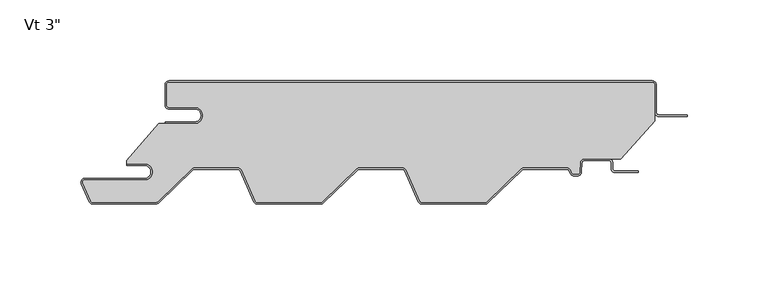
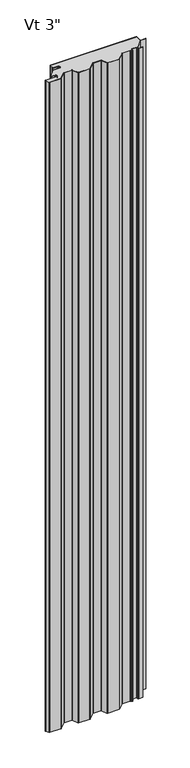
"""IFC4 building model written with IfcOpenShell, lengths in millimetres: plate geometry."""

from ifc_helpers import new_model, si_unit, point, frame_2d, origin, origin_with_axes, place, context, project, spatial, polyline, circle_curve, trimmed, segment, composite_curve, outline, extrude, source, transform, mapped, element, save


def plate_98024638(model_context):
    return source(origin(), model_context, "Body", "SweptSolid", [
        extrude(outline(composite_curve([segment(trimmed(circle_curve(frame_2d((-133.34375, -21.4324412)), 4.96875), [point((-133.34375, -26.4011912))], [point((-133.34375, -16.4636912))], True, "CARTESIAN"), True, "CONTINUOUS"), segment(polyline([(-133.34375, -16.4636912), (-149.21875, -16.4636912)]), True, "CONTINUOUS"), segment(trimmed(circle_curve(frame_2d((-149.21875, -15.0824412)), 1.38125), [point((-149.21875, -16.4636912))], [point((-150.6, -15.0824412))], False, "CARTESIAN"), True, "CONTINUOUS"), segment(polyline([(-150.6, -15.0824412), (-150.6, -2.3824412)]), True, "CONTINUOUS"), segment(trimmed(circle_curve(frame_2d((-149.21875, -2.3824412)), 1.38125), [point((-150.6, -2.3824412))], [point((-149.21875, -1.0011912))], False, "CARTESIAN"), True, "CONTINUOUS"), segment(polyline([(-149.21875, -1.0011912), (149.23125, -1.0011912)]), True, "CONTINUOUS"), segment(trimmed(circle_curve(frame_2d((149.23125, -2.3824412)), 1.38125), [point((149.23125, -1.0011912))], [point((150.6125, -2.3824412))], False, "CARTESIAN"), True, "CONTINUOUS"), segment(polyline([(150.6125, -2.3824412), (150.6125, -24.8719682), (129.7955434, -48.2136912), (107.3683457, -48.2136912)]), True, "CONTINUOUS"), segment(trimmed(circle_curve(frame_2d((107.3683457, -50.8011912)), 2.5875), [point((107.3683457, -48.2136912))], [point((104.7843918, -50.6657719))], True, "CARTESIAN"), True, "CONTINUOUS"), segment(polyline([(104.7843918, -50.6657719), (104.4823155, -56.4297302)]), True, "CONTINUOUS"), segment(trimmed(circle_curve(frame_2d((103.1029585, -56.3574412)), 1.38125), [point((104.4823155, -56.4297302))], [point((103.1029585, -57.7386912))], False, "CARTESIAN"), True, "CONTINUOUS"), segment(polyline([(103.1029585, -57.7386912), (100.7754519, -57.7386912)]), True, "CONTINUOUS"), segment(trimmed(circle_curve(frame_2d((100.7754519, -56.3574412)), 1.38125), [point((100.7754519, -57.7386912))], [point((99.5124516, -56.9166208))], False, "CARTESIAN"), True, "CONTINUOUS"), segment(polyline([(99.5124516, -56.9166208), (98.7640306, -55.2261871)]), True, "CONTINUOUS"), segment(trimmed(circle_curve(frame_2d((96.3980481, -56.2737)), 2.5875), [point((98.7640306, -55.2261871))], [point((96.3980481, -53.6862))], True, "CARTESIAN"), True, "CONTINUOUS"), segment(polyline([(96.3980481, -53.6862), (69.8742003, -53.6862)]), True, "CONTINUOUS"), segment(trimmed(circle_curve(frame_2d((69.8742003, -56.2737)), 2.5875), [point((69.8742003, -53.6862))], [point((68.0745496, -54.4145567))], True, "CARTESIAN"), True, "CONTINUOUS"), segment(polyline([(68.0745496, -54.4145567), (47.0036462, -74.8111912)]), True, "CONTINUOUS"), segment(trimmed(circle_curve(frame_2d((46.0429631, -73.81875)), 1.38125), [point((47.0036462, -74.8111912))], [point((46.0429631, -75.2))], False, "CARTESIAN"), True, "CONTINUOUS"), segment(polyline([(46.0429631, -75.2), (6.9062557, -75.2)]), True, "CONTINUOUS"), segment(trimmed(circle_curve(frame_2d((6.9062557, -73.81875)), 1.38125), [point((6.9062557, -75.2))], [point((5.6432554, -74.3779296))], False, "CARTESIAN"), True, "CONTINUOUS"), segment(polyline([(5.6432554, -74.3779296), (-2.8359694, -55.2261871)]), True, "CONTINUOUS"), segment(trimmed(circle_curve(frame_2d((-5.2019519, -56.2737)), 2.5875), [point((-2.8359694, -55.2261871))], [point((-5.2019519, -53.6862))], True, "CARTESIAN"), True, "CONTINUOUS"), segment(polyline([(-5.2019519, -53.6862), (-31.7257997, -53.6862)]), True, "CONTINUOUS"), segment(trimmed(circle_curve(frame_2d((-31.7257997, -56.2737)), 2.5875), [point((-31.7257997, -53.6862))], [point((-33.5254504, -54.4145567))], True, "CARTESIAN"), True, "CONTINUOUS"), segment(polyline([(-33.5254504, -54.4145567), (-54.5963538, -74.8111912)]), True, "CONTINUOUS"), segment(trimmed(circle_curve(frame_2d((-55.5570369, -73.81875)), 1.38125), [point((-54.5963538, -74.8111912))], [point((-55.5570369, -75.2))], False, "CARTESIAN"), True, "CONTINUOUS"), segment(polyline([(-55.5570369, -75.2), (-94.6937443, -75.2)]), True, "CONTINUOUS"), segment(trimmed(circle_curve(frame_2d((-94.6937443, -73.81875)), 1.38125), [point((-94.6937443, -75.2))], [point((-95.9567446, -74.3779296))], False, "CARTESIAN"), True, "CONTINUOUS"), segment(polyline([(-95.9567446, -74.3779296), (-104.4359694, -55.2261871)]), True, "CONTINUOUS"), segment(trimmed(circle_curve(frame_2d((-106.8019519, -56.2737)), 2.5875), [point((-104.4359694, -55.2261871))], [point((-106.8019519, -53.6862))], True, "CARTESIAN"), True, "CONTINUOUS"), segment(polyline([(-106.8019519, -53.6862), (-133.3257997, -53.6862)]), True, "CONTINUOUS"), segment(trimmed(circle_curve(frame_2d((-133.3257997, -56.2737)), 2.5875), [point((-133.3257997, -53.6862))], [point((-135.1254504, -54.4145567))], True, "CARTESIAN"), True, "CONTINUOUS"), segment(polyline([(-135.1254504, -54.4145567), (-155.9876931, -74.6092077)]), True, "CONTINUOUS"), segment(trimmed(circle_curve(frame_2d((-157.4474446, -73.1012)), 2.0988), [point((-155.9876931, -74.6092077))], [point((-157.4474446, -75.2))], False, "CARTESIAN"), True, "CONTINUOUS"), segment(polyline([(-157.4474446, -75.2), (-196.2937443, -75.2)]), True, "CONTINUOUS"), segment(trimmed(circle_curve(frame_2d((-196.2937443, -73.81875)), 1.38125), [point((-196.2937443, -75.2))], [point((-197.5567446, -74.3779296))], False, "CARTESIAN"), True, "CONTINUOUS"), segment(polyline([(-197.5567446, -74.3779296), (-202.4761552, -63.2666208)]), True, "CONTINUOUS"), segment(trimmed(circle_curve(frame_2d((-201.2131549, -62.7074412)), 1.38125), [point((-202.4761552, -63.2666208))], [point((-201.2131549, -61.3261912))], False, "CARTESIAN"), True, "CONTINUOUS"), segment(polyline([(-201.2131549, -61.3261912), (-164.3, -61.3261912)]), True, "CONTINUOUS"), segment(trimmed(circle_curve(frame_2d((-164.3, -56.3574412)), 4.96875), [point((-164.3, -61.3261912))], [point((-164.3, -51.3886912))], True, "CARTESIAN"), True, "CONTINUOUS"), segment(polyline([(-164.3, -51.3886912), (-175.4125, -51.3886912), (-175.4125, -49.233822), (-155.5914112, -26.4011912), (-133.34375, -26.4011912)]), True, "CONTINUOUS")], self_intersect=False)), origin_with_axes(), (0.0, 0.0, 1.0), 2400.0),
        extrude(outline(composite_curve([segment(polyline([(-151.6, -25.4), (-133.34375, -25.4)]), True, "CONTINUOUS"), segment(trimmed(circle_curve(frame_2d((-133.34375, -21.43125)), 3.96875), [point((-133.34375, -25.4))], [point((-133.34375, -17.4625))], True, "CARTESIAN"), True, "CONTINUOUS"), segment(polyline([(-133.34375, -17.4625), (-149.21875, -17.4625)]), True, "CONTINUOUS"), segment(trimmed(circle_curve(frame_2d((-149.21875, -15.08125)), 2.38125), [point((-149.21875, -17.4625))], [point((-151.6, -15.08125))], False, "CARTESIAN"), True, "CONTINUOUS"), segment(polyline([(-151.6, -15.08125), (-151.6, -2.38125)]), True, "CONTINUOUS"), segment(trimmed(circle_curve(frame_2d((-149.21875, -2.38125)), 2.38125), [point((-151.6, -2.38125))], [point((-149.21875, 0.0))], False, "CARTESIAN"), True, "CONTINUOUS"), segment(polyline([(-149.21875, 0.0), (149.23125, 0.0)]), True, "CONTINUOUS"), segment(trimmed(circle_curve(frame_2d((149.23125, -2.38125)), 2.38125), [point((149.23125, 0.0))], [point((151.6125, -2.38125))], False, "CARTESIAN"), True, "CONTINUOUS"), segment(polyline([(151.6125, -2.38125), (151.6125, -19.446875)]), True, "CONTINUOUS"), segment(trimmed(circle_curve(frame_2d((153.2, -19.446875)), 1.5875), [point((151.6125, -19.446875))], [point((153.2, -21.034375))], True, "CARTESIAN"), True, "CONTINUOUS"), segment(polyline([(153.2, -21.034375), (170.6625, -21.034375), (170.6625, -22.034375), (153.2, -22.034375)]), True, "CONTINUOUS"), segment(trimmed(circle_curve(frame_2d((153.2, -19.446875)), 2.5875), [point((153.2, -22.034375))], [point((150.6125, -19.446875))], False, "CARTESIAN"), True, "CONTINUOUS"), segment(polyline([(150.6125, -19.446875), (150.6125, -2.38125)]), True, "CONTINUOUS"), segment(trimmed(circle_curve(frame_2d((149.23125, -2.38125)), 1.38125), [point((150.6125, -2.38125))], [point((149.23125, -1.0))], True, "CARTESIAN"), True, "CONTINUOUS"), segment(polyline([(149.23125, -1.0), (-149.21875, -1.0)]), True, "CONTINUOUS"), segment(trimmed(circle_curve(frame_2d((-149.21875, -2.38125)), 1.38125), [point((-149.21875, -1.0))], [point((-150.6, -2.38125))], True, "CARTESIAN"), True, "CONTINUOUS"), segment(polyline([(-150.6, -2.38125), (-150.6, -15.08125)]), True, "CONTINUOUS"), segment(trimmed(circle_curve(frame_2d((-149.21875, -15.08125)), 1.38125), [point((-150.6, -15.08125))], [point((-149.21875, -16.4625))], True, "CARTESIAN"), True, "CONTINUOUS"), segment(polyline([(-149.21875, -16.4625), (-133.34375, -16.4625)]), True, "CONTINUOUS"), segment(trimmed(circle_curve(frame_2d((-133.34375, -21.43125)), 4.96875), [point((-133.34375, -16.4625))], [point((-133.34375, -26.4))], False, "CARTESIAN"), True, "CONTINUOUS"), segment(polyline([(-133.34375, -26.4), (-151.6, -26.4), (-151.6, -25.4)]), True, "CONTINUOUS")], self_intersect=False)), origin_with_axes(), (0.0, 0.0, 1.0), 2400.0),
        extrude(outline(composite_curve([segment(trimmed(circle_curve(frame_2d((-164.3, -56.3574412)), 3.96875), [point((-164.3, -60.3261912))], [point((-164.3, -52.3886912))], True, "CARTESIAN"), True, "CONTINUOUS"), segment(polyline([(-164.3, -52.3886912), (-175.4125, -52.3886912), (-175.4125, -51.3886912), (-164.3, -51.3886912)]), True, "CONTINUOUS"), segment(trimmed(circle_curve(frame_2d((-164.3, -56.3574412)), 4.96875), [point((-164.3, -51.3886912))], [point((-164.3, -61.3261912))], False, "CARTESIAN"), True, "CONTINUOUS"), segment(polyline([(-164.3, -61.3261912), (-201.2131549, -61.3261912)]), True, "CONTINUOUS"), segment(trimmed(circle_curve(frame_2d((-201.2131549, -62.7074412)), 1.38125), [point((-201.2131549, -61.3261912))], [point((-202.4761552, -63.2666208))], True, "CARTESIAN"), True, "CONTINUOUS"), segment(polyline([(-202.4761552, -63.2666208), (-197.5567446, -74.3779296)]), True, "CONTINUOUS"), segment(trimmed(circle_curve(frame_2d((-196.2937443, -73.81875)), 1.38125), [point((-197.5567446, -74.3779296))], [point((-196.2937443, -75.2))], True, "CARTESIAN"), True, "CONTINUOUS"), segment(polyline([(-196.2937443, -75.2), (-157.4474446, -75.2)]), True, "CONTINUOUS"), segment(trimmed(circle_curve(frame_2d((-157.4474446, -73.1012)), 2.0988), [point((-157.4474446, -75.2))], [point((-155.9876931, -74.6092077))], True, "CARTESIAN"), True, "CONTINUOUS"), segment(polyline([(-155.9876931, -74.6092077), (-135.1254504, -54.4145567)]), True, "CONTINUOUS"), segment(trimmed(circle_curve(frame_2d((-133.3257997, -56.2737)), 2.5875), [point((-135.1254504, -54.4145567))], [point((-133.3257997, -53.6862))], False, "CARTESIAN"), True, "CONTINUOUS"), segment(polyline([(-133.3257997, -53.6862), (-106.8019519, -53.6862)]), True, "CONTINUOUS"), segment(trimmed(circle_curve(frame_2d((-106.8019519, -56.2737)), 2.5875), [point((-106.8019519, -53.6862))], [point((-104.4359694, -55.2261871))], False, "CARTESIAN"), True, "CONTINUOUS"), segment(polyline([(-104.4359694, -55.2261871), (-95.9567446, -74.3779296)]), True, "CONTINUOUS"), segment(trimmed(circle_curve(frame_2d((-94.6937443, -73.81875)), 1.38125), [point((-95.9567446, -74.3779296))], [point((-94.6937443, -75.2))], True, "CARTESIAN"), True, "CONTINUOUS"), segment(polyline([(-94.6937443, -75.2), (-55.5570369, -75.2)]), True, "CONTINUOUS"), segment(trimmed(circle_curve(frame_2d((-55.5570369, -73.81875)), 1.38125), [point((-55.5570369, -75.2))], [point((-54.5963538, -74.8111912))], True, "CARTESIAN"), True, "CONTINUOUS"), segment(polyline([(-54.5963538, -74.8111912), (-33.5254504, -54.4145567)]), True, "CONTINUOUS"), segment(trimmed(circle_curve(frame_2d((-31.7257997, -56.2737)), 2.5875), [point((-33.5254504, -54.4145567))], [point((-31.7257997, -53.6862))], False, "CARTESIAN"), True, "CONTINUOUS"), segment(polyline([(-31.7257997, -53.6862), (-5.2019519, -53.6862)]), True, "CONTINUOUS"), segment(trimmed(circle_curve(frame_2d((-5.2019519, -56.2737)), 2.5875), [point((-5.2019519, -53.6862))], [point((-2.8359694, -55.2261871))], False, "CARTESIAN"), True, "CONTINUOUS"), segment(polyline([(-2.8359694, -55.2261871), (5.6432554, -74.3779296)]), True, "CONTINUOUS"), segment(trimmed(circle_curve(frame_2d((6.9062557, -73.81875)), 1.38125), [point((5.6432554, -74.3779296))], [point((6.9062557, -75.2))], True, "CARTESIAN"), True, "CONTINUOUS"), segment(polyline([(6.9062557, -75.2), (46.0429631, -75.2)]), True, "CONTINUOUS"), segment(trimmed(circle_curve(frame_2d((46.0429631, -73.81875)), 1.38125), [point((46.0429631, -75.2))], [point((47.0036462, -74.8111912))], True, "CARTESIAN"), True, "CONTINUOUS"), segment(polyline([(47.0036462, -74.8111912), (68.0745496, -54.4145567)]), True, "CONTINUOUS"), segment(trimmed(circle_curve(frame_2d((69.8742003, -56.2737)), 2.5875), [point((68.0745496, -54.4145567))], [point((69.8742003, -53.6862))], False, "CARTESIAN"), True, "CONTINUOUS"), segment(polyline([(69.8742003, -53.6862), (96.3980481, -53.6862)]), True, "CONTINUOUS"), segment(trimmed(circle_curve(frame_2d((96.3980481, -56.2737)), 2.5875), [point((96.3980481, -53.6862))], [point((98.7640306, -55.2261871))], False, "CARTESIAN"), True, "CONTINUOUS"), segment(polyline([(98.7640306, -55.2261871), (99.5124516, -56.9166208)]), True, "CONTINUOUS"), segment(trimmed(circle_curve(frame_2d((100.7754519, -56.3574412)), 1.38125), [point((99.5124516, -56.9166208))], [point((100.7754519, -57.7386912))], True, "CARTESIAN"), True, "CONTINUOUS"), segment(polyline([(100.7754519, -57.7386912), (103.1029585, -57.7386912)]), True, "CONTINUOUS"), segment(trimmed(circle_curve(frame_2d((103.1029585, -56.3574412)), 1.38125), [point((103.1029585, -57.7386912))], [point((104.4823155, -56.4297302))], True, "CARTESIAN"), True, "CONTINUOUS"), segment(polyline([(104.4823155, -56.4297302), (104.7843918, -50.6657719)]), True, "CONTINUOUS"), segment(trimmed(circle_curve(frame_2d((107.3683457, -50.8011912)), 2.5875), [point((104.7843918, -50.6657719))], [point((107.3683457, -48.2136912))], False, "CARTESIAN"), True, "CONTINUOUS"), segment(polyline([(107.3683457, -48.2136912), (122.24375, -48.2136912)]), True, "CONTINUOUS"), segment(trimmed(circle_curve(frame_2d((122.24375, -50.8011912)), 2.5875), [point((122.24375, -48.2136912))], [point((124.83125, -50.8011912))], False, "CARTESIAN"), True, "CONTINUOUS"), segment(polyline([(124.83125, -50.8011912), (124.83125, -54.3730662)]), True, "CONTINUOUS"), segment(trimmed(circle_curve(frame_2d((126.2125, -54.3730662)), 1.38125), [point((124.83125, -54.3730662))], [point((126.2125, -55.7543162))], True, "CARTESIAN"), True, "CONTINUOUS"), segment(polyline([(126.2125, -55.7543162), (140.5, -55.7543162), (140.5, -56.7543162), (126.2125, -56.7543162)]), True, "CONTINUOUS"), segment(trimmed(circle_curve(frame_2d((126.2125, -54.3730662)), 2.38125), [point((126.2125, -56.7543162))], [point((123.83125, -54.3730662))], False, "CARTESIAN"), True, "CONTINUOUS"), segment(polyline([(123.83125, -54.3730662), (123.83125, -50.8011912)]), True, "CONTINUOUS"), segment(trimmed(circle_curve(frame_2d((122.24375, -50.8011912)), 1.5875), [point((123.83125, -50.8011912))], [point((122.24375, -49.2136912))], True, "CARTESIAN"), True, "CONTINUOUS"), segment(polyline([(122.24375, -49.2136912), (107.3683457, -49.2136912)]), True, "CONTINUOUS"), segment(trimmed(circle_curve(frame_2d((107.3683457, -50.8011912)), 1.5875), [point((107.3683457, -49.2136912))], [point((105.7830213, -50.7181078))], True, "CARTESIAN"), True, "CONTINUOUS"), segment(polyline([(105.7830213, -50.7181078), (105.4809451, -56.4820662)]), True, "CONTINUOUS"), segment(trimmed(circle_curve(frame_2d((103.1029585, -56.3574412)), 2.38125), [point((105.4809451, -56.4820662))], [point((103.1029585, -58.7386912))], False, "CARTESIAN"), True, "CONTINUOUS"), segment(polyline([(103.1029585, -58.7386912), (100.7754519, -58.7386912)]), True, "CONTINUOUS"), segment(trimmed(circle_curve(frame_2d((100.7754519, -56.3574412)), 2.38125), [point((100.7754519, -58.7386912))], [point((98.5980623, -57.3214567))], False, "CARTESIAN"), True, "CONTINUOUS"), segment(polyline([(98.5980623, -57.3214567), (97.8496412, -55.631023)]), True, "CONTINUOUS"), segment(trimmed(circle_curve(frame_2d((96.3980481, -56.2737)), 1.5875), [point((97.8496412, -55.631023))], [point((96.3980481, -54.6862))], True, "CARTESIAN"), True, "CONTINUOUS"), segment(polyline([(96.3980481, -54.6862), (69.8742003, -54.6862)]), True, "CONTINUOUS"), segment(trimmed(circle_curve(frame_2d((69.8742003, -56.2737)), 1.5875), [point((69.8742003, -54.6862))], [point((68.7700668, -55.1330662))], True, "CARTESIAN"), True, "CONTINUOUS"), segment(polyline([(68.7700668, -55.1330662), (47.6991634, -75.5297007)]), True, "CONTINUOUS"), segment(trimmed(circle_curve(frame_2d((46.0429631, -73.81875)), 2.38125), [point((47.6991634, -75.5297007))], [point((46.0429631, -76.2))], False, "CARTESIAN"), True, "CONTINUOUS"), segment(polyline([(46.0429631, -76.2), (6.9062557, -76.2)]), True, "CONTINUOUS"), segment(trimmed(circle_curve(frame_2d((6.9062557, -73.81875)), 2.38125), [point((6.9062557, -76.2))], [point((4.7288661, -74.7827655))], False, "CARTESIAN"), True, "CONTINUOUS"), segment(polyline([(4.7288661, -74.7827655), (-3.7503588, -55.631023)]), True, "CONTINUOUS"), segment(trimmed(circle_curve(frame_2d((-5.2019519, -56.2737)), 1.5875), [point((-3.7503588, -55.631023))], [point((-5.2019519, -54.6862))], True, "CARTESIAN"), True, "CONTINUOUS"), segment(polyline([(-5.2019519, -54.6862), (-31.7257997, -54.6862)]), True, "CONTINUOUS"), segment(trimmed(circle_curve(frame_2d((-31.7257997, -56.2737)), 1.5875), [point((-31.7257997, -54.6862))], [point((-32.8299332, -55.1330662))], True, "CARTESIAN"), True, "CONTINUOUS"), segment(polyline([(-32.8299332, -55.1330662), (-53.9008366, -75.5297007)]), True, "CONTINUOUS"), segment(trimmed(circle_curve(frame_2d((-55.5570369, -73.81875)), 2.38125), [point((-53.9008366, -75.5297007))], [point((-55.5570369, -76.2))], False, "CARTESIAN"), True, "CONTINUOUS"), segment(polyline([(-55.5570369, -76.2), (-94.6937443, -76.2)]), True, "CONTINUOUS"), segment(trimmed(circle_curve(frame_2d((-94.6937443, -73.81875)), 2.38125), [point((-94.6937443, -76.2))], [point((-96.8711339, -74.7827655))], False, "CARTESIAN"), True, "CONTINUOUS"), segment(polyline([(-96.8711339, -74.7827655), (-105.3503588, -55.631023)]), True, "CONTINUOUS"), segment(trimmed(circle_curve(frame_2d((-106.8019519, -56.2737)), 1.5875), [point((-105.3503588, -55.631023))], [point((-106.8019519, -54.6862))], True, "CARTESIAN"), True, "CONTINUOUS"), segment(polyline([(-106.8019519, -54.6862), (-133.3257997, -54.6862)]), True, "CONTINUOUS"), segment(trimmed(circle_curve(frame_2d((-133.3257997, -56.2737)), 1.5875), [point((-133.3257997, -54.6862))], [point((-134.4299332, -55.1330662))], True, "CARTESIAN"), True, "CONTINUOUS"), segment(polyline([(-134.4299332, -55.1330662), (-155.2921759, -75.3277172)]), True, "CONTINUOUS"), segment(trimmed(circle_curve(frame_2d((-157.4474446, -73.1012)), 3.0988), [point((-155.2921759, -75.3277172))], [point((-157.4474446, -76.2))], False, "CARTESIAN"), True, "CONTINUOUS"), segment(polyline([(-157.4474446, -76.2), (-196.2937443, -76.2)]), True, "CONTINUOUS"), segment(trimmed(circle_curve(frame_2d((-196.2937443, -73.81875)), 2.38125), [point((-196.2937443, -76.2))], [point((-198.4711339, -74.7827655))], False, "CARTESIAN"), True, "CONTINUOUS"), segment(polyline([(-198.4711339, -74.7827655), (-203.3905446, -63.6714567)]), True, "CONTINUOUS"), segment(trimmed(circle_curve(frame_2d((-201.2131549, -62.7074412)), 2.38125), [point((-203.3905446, -63.6714567))], [point((-201.2131549, -60.3261912))], False, "CARTESIAN"), True, "CONTINUOUS"), segment(polyline([(-201.2131549, -60.3261912), (-164.3, -60.3261912)]), True, "CONTINUOUS")], self_intersect=False)), origin_with_axes(), (0.0, 0.0, 1.0), 2400.0),
    ])


if __name__ == "__main__":
    model = new_model("IFC4")
    model_context = context("Model", 3, world=origin())
    ifc_project = project(units=[si_unit("LENGTHUNIT", "METRE", prefix="MILLI")], contexts=[model_context])
    site = spatial("IfcSite", under=ifc_project)
    building = spatial("IfcBuilding", under=site)
    placement = place(None, origin())
    plate_shape = plate_98024638(model_context)
    element("IfcPlate", 1, ObjectType="KIP-12-DWR-R19-CP-Vt-S : Vt 3\"", at=placement, inside=building, context=model_context, shape_type="MappedRepresentation", body=[
        mapped(plate_shape, transform((0.0, 0.0, 0.0), x_axis=(1.0, 0.0, 0.0), y_axis=(0.0, 1.0, 0.0), z_axis=(0.0, 0.0, 1.0))),
    ])
    save(model, "model.ifc")
